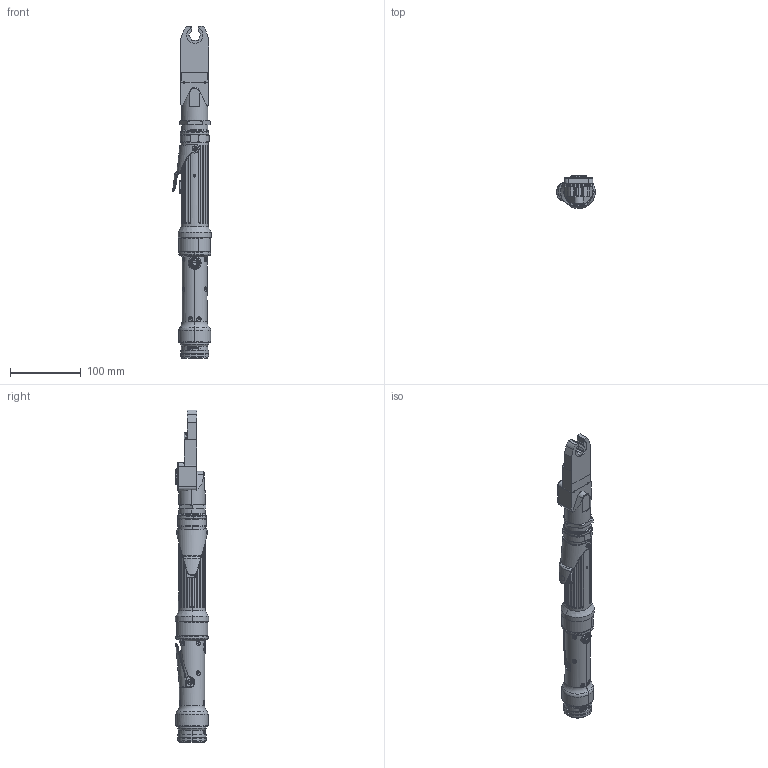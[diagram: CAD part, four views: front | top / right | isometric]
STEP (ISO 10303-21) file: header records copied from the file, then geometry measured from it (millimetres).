
FILE_DESCRIPTION (( 'STEP AP214' ), '1' );
FILE_NAME ('AET32025CDL.STEP', '2016-04-19T21:45:51', ( 'AIMCO' ), ( '' ), 'SwSTEP 2.0', 'SolidWorks 2016', '' );
FILE_SCHEMA (( 'AUTOMOTIVE_DESIGN' ));
Length unit declared in the file: inch
Products named in the file (1): AET32025CDL
Bounding box: 54.45 x 46.99 x 468.87 mm (x, y, z)
Surface area: 93786.2 mm2 (no closed solid volume)
Topology: 0 solids, 108 shells, 1051 faces, 3750 edges, 2664 vertices
Faces by surface type: plane 286, cylinder 267, bspline 172, cone 154, torus 134, sphere 38
Entity records: 73114 total; most frequent: CARTESIAN_POINT 30573, ORIENTED_EDGE 5626, DIRECTION 5423, EDGE_CURVE 3686, VERTEX_POINT 2632, AXIS2_PLACEMENT_3D 2103, CIRCLE 1223, LINE 1217
